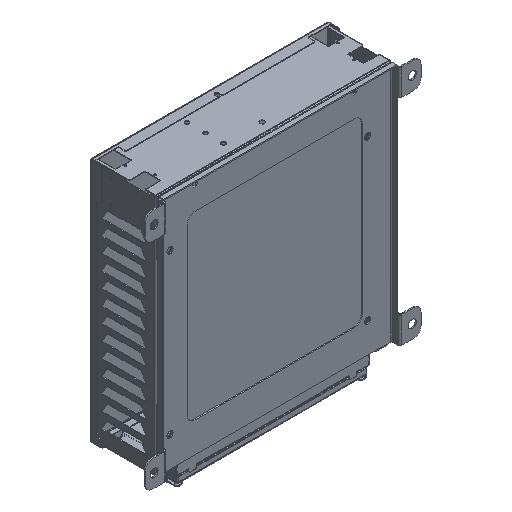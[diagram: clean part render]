
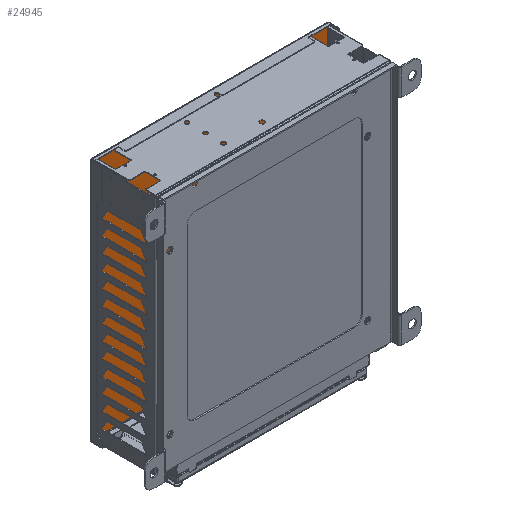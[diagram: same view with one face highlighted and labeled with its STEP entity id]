
A CAD part, isometric view. The second image highlights one B-rep face of the part: STEP entity #24945.
In plain terms, the highlighted planar face has unit normal (0, -1, 0).
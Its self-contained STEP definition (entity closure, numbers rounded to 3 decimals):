
#1989 = FACE_OUTER_BOUND ( 'NONE', #4529, .T. ) ;
#4529 = EDGE_LOOP ( 'NONE', ( #37953, #16311, #6308, #10647 ) ) ;
#6308 = ORIENTED_EDGE ( 'NONE', *, *, #13298, .T. ) ;
#6966 = CARTESIAN_POINT ( 'NONE',  ( -156.75, 84., -159.75 ) ) ;
#8278 = VERTEX_POINT ( 'NONE', #36178 ) ;
#9579 = VERTEX_POINT ( 'NONE', #18810 ) ;
#10284 = VECTOR ( 'NONE', #31147, 1000. ) ;
#10647 = ORIENTED_EDGE ( 'NONE', *, *, #18105, .T. ) ;
#13298 = EDGE_CURVE ( 'NONE', #34069, #8278, #13615, .T. ) ;
#13355 = VECTOR ( 'NONE', #23076, 1000. ) ;
#13417 = CARTESIAN_POINT ( 'NONE',  ( 154.75, 84., -161.75 ) ) ;
#13615 = LINE ( 'NONE', #13417, #29221 ) ;
#14169 = PLANE ( 'NONE',  #28127 ) ;
#15834 = VECTOR ( 'NONE', #38329, 1000. ) ;
#16311 = ORIENTED_EDGE ( 'NONE', *, *, #25947, .T. ) ;
#18105 = EDGE_CURVE ( 'NONE', #8278, #9579, #22872, .T. ) ;
#18810 = CARTESIAN_POINT ( 'NONE',  ( -154.75, 84., 159.75 ) ) ;
#19040 = CARTESIAN_POINT ( 'NONE',  ( 154.75, 84., -159.75 ) ) ;
#21891 = EDGE_CURVE ( 'NONE', #9579, #28438, #32937, .T. ) ;
#22872 = LINE ( 'NONE', #34845, #13355 ) ;
#22965 = CARTESIAN_POINT ( 'NONE',  ( -154.75, 84., -161.75 ) ) ;
#23076 = DIRECTION ( 'NONE',  ( -1., 0., 0. ) ) ;
#24771 = LINE ( 'NONE', #6966, #10284 ) ;
#24945 = ADVANCED_FACE ( 'NONE', ( #1989 ), #14169, .T. ) ;
#25632 = DIRECTION ( 'NONE',  ( 0., 0., 1. ) ) ;
#25769 = CARTESIAN_POINT ( 'NONE',  ( -154.75, 84., -159.75 ) ) ;
#25947 = EDGE_CURVE ( 'NONE', #28438, #34069, #24771, .T. ) ;
#28127 = AXIS2_PLACEMENT_3D ( 'NONE', #34941, #35744, #38534 ) ;
#28438 = VERTEX_POINT ( 'NONE', #25769 ) ;
#29221 = VECTOR ( 'NONE', #25632, 1000. ) ;
#31147 = DIRECTION ( 'NONE',  ( 1., 0., 0. ) ) ;
#32937 = LINE ( 'NONE', #22965, #15834 ) ;
#34069 = VERTEX_POINT ( 'NONE', #19040 ) ;
#34845 = CARTESIAN_POINT ( 'NONE',  ( -156.75, 84., 159.75 ) ) ;
#34941 = CARTESIAN_POINT ( 'NONE',  ( -156.75, 84., -161.75 ) ) ;
#35744 = DIRECTION ( 'NONE',  ( 0., -1., 0. ) ) ;
#36178 = CARTESIAN_POINT ( 'NONE',  ( 154.75, 84., 159.75 ) ) ;
#37953 = ORIENTED_EDGE ( 'NONE', *, *, #21891, .T. ) ;
#38329 = DIRECTION ( 'NONE',  ( 0., 0., -1. ) ) ;
#38534 = DIRECTION ( 'NONE',  ( 0., 0., -1. ) ) ;
